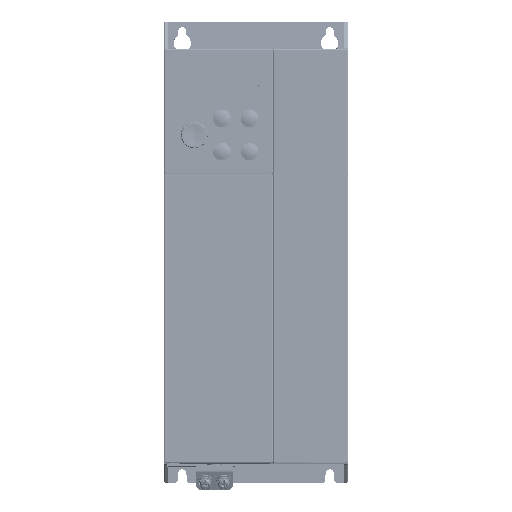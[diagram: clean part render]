
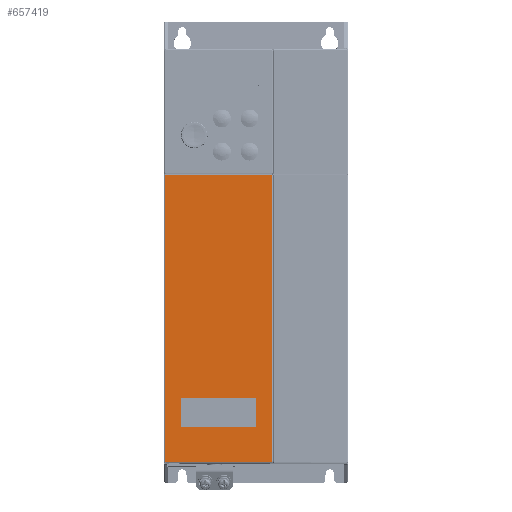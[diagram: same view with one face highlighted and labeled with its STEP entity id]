
A CAD part, top view. The second image highlights one B-rep face of the part: STEP entity #657419.
In plain terms, the highlighted planar face has unit normal (0, 0, 1).
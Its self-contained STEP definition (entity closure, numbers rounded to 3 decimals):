
#650908=DIRECTION('',(0.,1.,0.));
#650909=VECTOR('',#650908,15.262);
#650910=CARTESIAN_POINT('',(50.031,-204.881,0.));
#650911=LINE('',#650910,#650909);
#650915=DIRECTION('',(-1.,0.,0.));
#650916=VECTOR('',#650915,40.262);
#650917=CARTESIAN_POINT('',(49.881,-189.469,0.));
#650918=LINE('',#650917,#650916);
#650922=DIRECTION('',(0.,-1.,0.));
#650923=VECTOR('',#650922,15.262);
#650924=CARTESIAN_POINT('',(9.469,-189.619,0.));
#650925=LINE('',#650924,#650923);
#650929=DIRECTION('',(1.,0.,0.));
#650930=VECTOR('',#650929,40.262);
#650931=CARTESIAN_POINT('',(9.619,-205.031,0.));
#650932=LINE('',#650931,#650930);
#650936=DIRECTION('',(1.,0.,0.));
#650937=VECTOR('',#650936,58.215);
#650938=CARTESIAN_POINT('',(0.6,-68.5,0.));
#650939=LINE('',#650938,#650937);
#650943=DIRECTION('',(0.,1.,0.));
#650944=VECTOR('',#650943,155.162);
#650945=CARTESIAN_POINT('',(58.815,-223.662,0.));
#650946=LINE('',#650945,#650944);
#650950=CARTESIAN_POINT('',(58.415,-224.061,0.));
#650951=CARTESIAN_POINT('',(58.459,-224.061,0.));
#650952=CARTESIAN_POINT('',(58.542,-224.047,0.));
#650953=CARTESIAN_POINT('',(58.654,-223.99,0.));
#650954=CARTESIAN_POINT('',(58.741,-223.905,0.));
#650955=CARTESIAN_POINT('',(58.8,-223.793,0.));
#650956=CARTESIAN_POINT('',(58.815,-223.708,0.));
#650957=CARTESIAN_POINT('',(58.815,-223.662,0.));
#650962=DIRECTION('',(1.,0.,0.));
#650963=VECTOR('',#650962,57.415);
#650964=CARTESIAN_POINT('',(1.,-224.061,0.));
#650965=LINE('',#650964,#650963);
#650969=CARTESIAN_POINT('',(0.6,-223.661,0.));
#650970=CARTESIAN_POINT('',(0.6,-223.69,0.));
#650971=CARTESIAN_POINT('',(0.606,-223.743,0.));
#650972=CARTESIAN_POINT('',(0.628,-223.813,0.));
#650973=CARTESIAN_POINT('',(0.658,-223.872,0.));
#650974=CARTESIAN_POINT('',(0.693,-223.92,0.));
#650975=CARTESIAN_POINT('',(0.731,-223.958,0.));
#650976=CARTESIAN_POINT('',(0.769,-223.989,0.));
#650977=CARTESIAN_POINT('',(0.808,-224.013,0.));
#650978=CARTESIAN_POINT('',(0.849,-224.033,0.));
#650979=CARTESIAN_POINT('',(0.893,-224.048,0.));
#650980=CARTESIAN_POINT('',(0.943,-224.058,0.));
#650981=CARTESIAN_POINT('',(0.98,-224.061,0.));
#650982=CARTESIAN_POINT('',(1.,-224.061,0.));
#650987=DIRECTION('',(0.,-1.,0.));
#650988=VECTOR('',#650987,155.161);
#650989=CARTESIAN_POINT('',(0.6,-68.5,0.));
#650990=LINE('',#650989,#650988);
#651008=CARTESIAN_POINT('',(49.881,-189.469,0.));
#651009=CARTESIAN_POINT('',(49.981,-189.469,0.));
#651010=CARTESIAN_POINT('',(50.031,-189.519,0.));
#651011=CARTESIAN_POINT('',(50.031,-189.619,0.));
#651076=CARTESIAN_POINT('',(9.469,-189.619,0.));
#651077=CARTESIAN_POINT('',(9.469,-189.519,0.));
#651078=CARTESIAN_POINT('',(9.519,-189.469,0.));
#651079=CARTESIAN_POINT('',(9.619,-189.469,0.));
#651098=CARTESIAN_POINT('',(9.619,-205.031,0.));
#651099=CARTESIAN_POINT('',(9.519,-205.031,0.));
#651100=CARTESIAN_POINT('',(9.469,-204.981,0.));
#651101=CARTESIAN_POINT('',(9.469,-204.881,0.));
#651120=CARTESIAN_POINT('',(50.031,-204.881,0.));
#651121=CARTESIAN_POINT('',(50.031,-204.981,0.));
#651122=CARTESIAN_POINT('',(49.981,-205.031,0.));
#651123=CARTESIAN_POINT('',(49.881,-205.031,0.));
#656589=CARTESIAN_POINT('',(0.6,-223.661,0.));
#656591=VERTEX_POINT('',#656589);
#656746=VERTEX_POINT('',#650950);
#656747=VERTEX_POINT('',#650957);
#656750=CARTESIAN_POINT('',(1.,-224.061,0.));
#656751=VERTEX_POINT('',#656750);
#656848=CARTESIAN_POINT('',(9.469,-189.619,0.));
#656849=VERTEX_POINT('',#656848);
#656850=CARTESIAN_POINT('',(9.619,-189.469,0.));
#656851=VERTEX_POINT('',#656850);
#656854=CARTESIAN_POINT('',(49.881,-189.469,0.));
#656855=VERTEX_POINT('',#656854);
#656856=CARTESIAN_POINT('',(50.031,-189.619,0.));
#656857=VERTEX_POINT('',#656856);
#656860=CARTESIAN_POINT('',(50.031,-204.881,0.));
#656861=VERTEX_POINT('',#656860);
#656862=CARTESIAN_POINT('',(49.881,-205.031,0.));
#656863=VERTEX_POINT('',#656862);
#656866=CARTESIAN_POINT('',(9.619,-205.031,0.));
#656867=VERTEX_POINT('',#656866);
#656868=CARTESIAN_POINT('',(9.469,-204.881,0.));
#656869=VERTEX_POINT('',#656868);
#657272=CARTESIAN_POINT('',(0.6,-68.5,0.));
#657273=CARTESIAN_POINT('',(58.815,-68.5,0.));
#657274=VERTEX_POINT('',#657272);
#657275=VERTEX_POINT('',#657273);
#657382=CARTESIAN_POINT('',(0.,0.,0.));
#657383=DIRECTION('',(0.,0.,1.));
#657384=DIRECTION('',(1.,0.,0.));
#657385=AXIS2_PLACEMENT_3D('',#657382,#657383,#657384);
#657386=PLANE('',#657385);
#657388=ORIENTED_EDGE('',*,*,#657387,.T.);
#657390=ORIENTED_EDGE('',*,*,#657389,.F.);
#657392=ORIENTED_EDGE('',*,*,#657391,.F.);
#657394=ORIENTED_EDGE('',*,*,#657393,.F.);
#657396=ORIENTED_EDGE('',*,*,#657395,.F.);
#657398=ORIENTED_EDGE('',*,*,#657397,.F.);
#657399=EDGE_LOOP('',(#657388,#657390,#657392,#657394,#657396,#657398));
#657400=FACE_OUTER_BOUND('',#657399,.F.);
#657402=ORIENTED_EDGE('',*,*,#657401,.T.);
#657404=ORIENTED_EDGE('',*,*,#657403,.F.);
#657406=ORIENTED_EDGE('',*,*,#657405,.T.);
#657408=ORIENTED_EDGE('',*,*,#657407,.F.);
#657410=ORIENTED_EDGE('',*,*,#657409,.T.);
#657412=ORIENTED_EDGE('',*,*,#657411,.F.);
#657414=ORIENTED_EDGE('',*,*,#657413,.T.);
#657416=ORIENTED_EDGE('',*,*,#657415,.F.);
#657417=EDGE_LOOP('',(#657402,#657404,#657406,#657408,#657410,#657412,#657414,
#657416));
#657418=FACE_BOUND('',#657417,.F.);
#657419=ADVANCED_FACE('',(#657400,#657418),#657386,.T.);
#650958=B_SPLINE_CURVE_WITH_KNOTS('',3,(#650950,#650951,#650952,#650953,#650954,
#650955,#650956,#650957),.UNSPECIFIED.,.F.,.F.,(4,1,1,1,1,4),(0.,0.2,0.4,
0.6,0.8,1.),.UNSPECIFIED.);
#650983=B_SPLINE_CURVE_WITH_KNOTS('',3,(#650969,#650970,#650971,#650972,#650973,
#650974,#650975,#650976,#650977,#650978,#650979,#650980,#650981,#650982),
.UNSPECIFIED.,.F.,.F.,(4,1,1,1,1,1,1,1,1,1,1,4),(0.,0.091,
0.182,0.273,0.364,0.455,
0.545,0.636,0.727,0.818,
0.909,1.),.UNSPECIFIED.);
#651012=B_SPLINE_CURVE_WITH_KNOTS('',3,(#651008,#651009,#651010,#651011),
.UNSPECIFIED.,.F.,.F.,(4,4),(0.,1.),.UNSPECIFIED.);
#651080=B_SPLINE_CURVE_WITH_KNOTS('',3,(#651076,#651077,#651078,#651079),
.UNSPECIFIED.,.F.,.F.,(4,4),(0.,1.),.UNSPECIFIED.);
#651102=B_SPLINE_CURVE_WITH_KNOTS('',3,(#651098,#651099,#651100,#651101),
.UNSPECIFIED.,.F.,.F.,(4,4),(0.,1.),.UNSPECIFIED.);
#651124=B_SPLINE_CURVE_WITH_KNOTS('',3,(#651120,#651121,#651122,#651123),
.UNSPECIFIED.,.F.,.F.,(4,4),(0.,1.),.UNSPECIFIED.);
#657387=EDGE_CURVE('',#657274,#657275,#650939,.T.);
#657389=EDGE_CURVE('',#656747,#657275,#650946,.T.);
#657391=EDGE_CURVE('',#656746,#656747,#650958,.T.);
#657393=EDGE_CURVE('',#656751,#656746,#650965,.T.);
#657395=EDGE_CURVE('',#656591,#656751,#650983,.T.);
#657397=EDGE_CURVE('',#657274,#656591,#650990,.T.);
#657401=EDGE_CURVE('',#656861,#656857,#650911,.T.);
#657403=EDGE_CURVE('',#656855,#656857,#651012,.T.);
#657405=EDGE_CURVE('',#656855,#656851,#650918,.T.);
#657407=EDGE_CURVE('',#656849,#656851,#651080,.T.);
#657409=EDGE_CURVE('',#656849,#656869,#650925,.T.);
#657411=EDGE_CURVE('',#656867,#656869,#651102,.T.);
#657413=EDGE_CURVE('',#656867,#656863,#650932,.T.);
#657415=EDGE_CURVE('',#656861,#656863,#651124,.T.);
